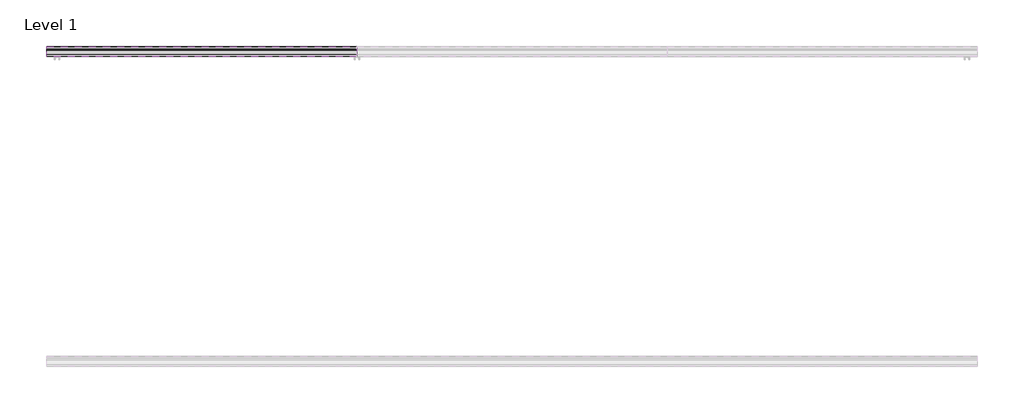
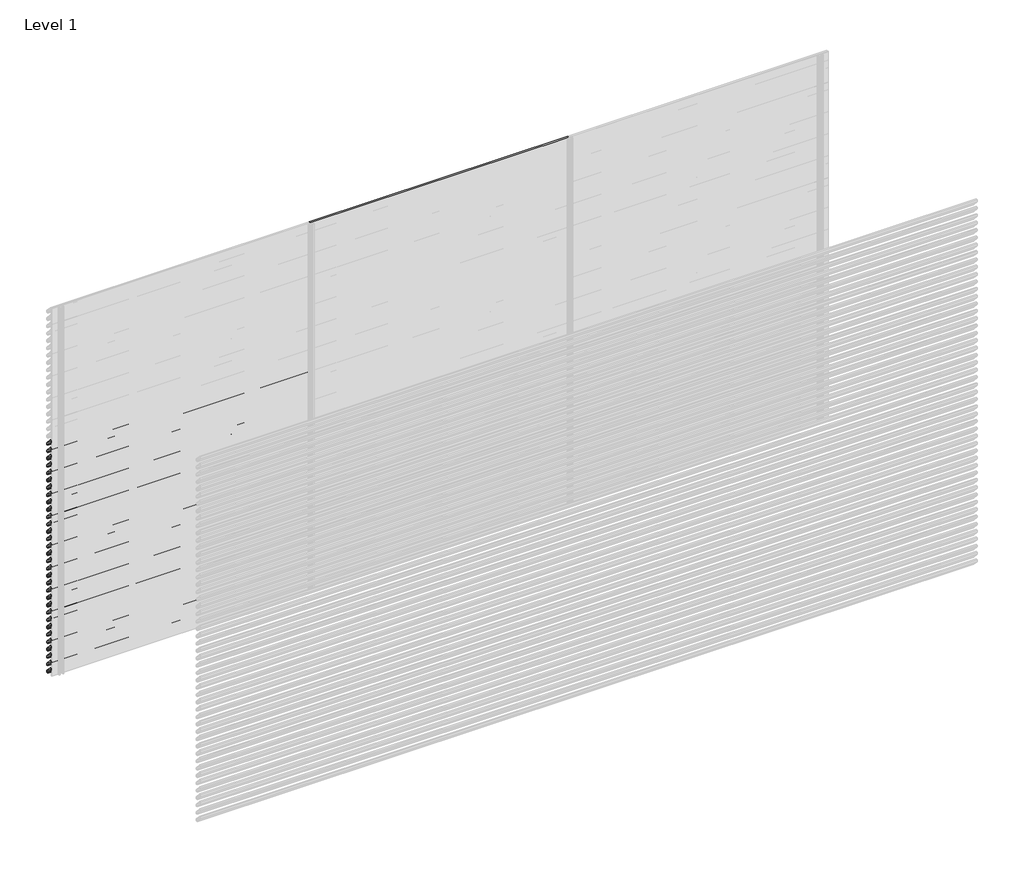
# One storey, part 139 of 153: 33 proxies.
"""IFC4 building model written with IfcOpenShell, lengths in millimetres."""

from ifc_helpers import new_model, si_unit, point, frame, frame_2d, origin, place, context, project, spatial, polyline, circle_curve, trimmed, segment, composite_curve, outline, extrude, element, save

model = new_model("IFC4")

# Units and contexts
model_context = context("Model", 3, world=origin())
ifc_project = project(units=[si_unit("LENGTHUNIT", "METRE", prefix="MILLI")], contexts=[model_context])

# Site, building, storey
site = spatial("IfcSite", under=ifc_project)
building = spatial("IfcBuilding", under=site)
storey = spatial("IfcBuildingStorey", under=building, Name="Level 1", Elevation=0.0)

# Proxies
placement = place(None, origin())
element("IfcBuildingElementProxy", 1, Name="Wall Sweeps", at=placement, inside=storey, context=model_context, shape_type="SweptSolid", body=[
    extrude(outline(composite_curve([segment(polyline([(66485.0540136, 1920.0), (66499.874191, 1918.7034025), (66549.0540136, 1865.0102749), (66549.0540136, 1853.6108187)]), True, "CONTINUOUS"), segment(trimmed(circle_curve(frame_2d((66545.7883652, 1853.897153)), 3.2781774), [point((66549.0540136, 1853.6108187))], [point((66546.4639442, 1850.6893438))], False, "CARTESIAN"), True, "CONTINUOUS"), segment(polyline([(66546.4639442, 1850.6893438), (66534.1895723, 1851.6282758), (66485.0540136, 1905.2730773), (66485.0540136, 1920.0)]), True, "CONTINUOUS")], self_intersect=False), holes=[composite_curve([segment(polyline([(66499.1621773, 1917.2599659), (66486.5540136, 1918.3630372), (66486.5540136, 1905.856213), (66534.8952036, 1853.0786805), (66546.3312542, 1852.2038762)]), True, "CONTINUOUS"), segment(trimmed(circle_curve(frame_2d((66545.7883652, 1853.897153)), 1.7781774), [point((66546.3312542, 1852.2038762))], [point((66547.5540136, 1853.6864389))], True, "CARTESIAN"), True, "CONTINUOUS"), segment(polyline([(66547.5540136, 1853.6864389), (66547.5540136, 1864.4271392), (66499.1621773, 1917.2599659)]), True, "CONTINUOUS")], self_intersect=False)]), frame((44966.6208097, 0.0, 0.0), z_axis=(1.0, 0.0, 0.0), x_axis=(0.0, 1.0, 0.0)), (0.0, 0.0, 1.0), 2000.0000001),
])
element("IfcBuildingElementProxy", 2, Name="Wall Sweeps", at=placement, inside=storey, context=model_context, shape_type="SweptSolid", body=[
    extrude(outline(composite_curve([segment(polyline([(66485.0540136, 1860.0), (66499.874191, 1858.7034025), (66549.0540136, 1805.0102749), (66549.0540136, 1793.6108187)]), True, "CONTINUOUS"), segment(trimmed(circle_curve(frame_2d((66545.7883652, 1793.897153)), 3.2781774), [point((66549.0540136, 1793.6108187))], [point((66546.4639442, 1790.6893438))], False, "CARTESIAN"), True, "CONTINUOUS"), segment(polyline([(66546.4639442, 1790.6893438), (66534.1895723, 1791.6282758), (66485.0540136, 1845.2730773), (66485.0540136, 1860.0)]), True, "CONTINUOUS")], self_intersect=False), holes=[composite_curve([segment(polyline([(66499.1621773, 1857.2599659), (66486.5540136, 1858.3630372), (66486.5540136, 1845.856213), (66534.8952036, 1793.0786805), (66546.3312542, 1792.2038762)]), True, "CONTINUOUS"), segment(trimmed(circle_curve(frame_2d((66545.7883652, 1793.897153)), 1.7781774), [point((66546.3312542, 1792.2038762))], [point((66547.5540136, 1793.6864389))], True, "CARTESIAN"), True, "CONTINUOUS"), segment(polyline([(66547.5540136, 1793.6864389), (66547.5540136, 1804.4271392), (66499.1621773, 1857.2599659)]), True, "CONTINUOUS")], self_intersect=False)]), frame((44966.6208097, 0.0, 0.0), z_axis=(1.0, 0.0, 0.0), x_axis=(0.0, 1.0, 0.0)), (0.0, 0.0, 1.0), 2000.0000001),
])
element("IfcBuildingElementProxy", 3, Name="Wall Sweeps", at=placement, inside=storey, context=model_context, shape_type="SweptSolid", body=[
    extrude(outline(composite_curve([segment(polyline([(66485.0540136, 1800.0), (66499.874191, 1798.7034025), (66549.0540136, 1745.0102749), (66549.0540136, 1733.6108187)]), True, "CONTINUOUS"), segment(trimmed(circle_curve(frame_2d((66545.7883652, 1733.897153)), 3.2781774), [point((66549.0540136, 1733.6108187))], [point((66546.4639442, 1730.6893438))], False, "CARTESIAN"), True, "CONTINUOUS"), segment(polyline([(66546.4639442, 1730.6893438), (66534.1895723, 1731.6282758), (66485.0540136, 1785.2730773), (66485.0540136, 1800.0)]), True, "CONTINUOUS")], self_intersect=False), holes=[composite_curve([segment(polyline([(66499.1621773, 1797.2599659), (66486.5540136, 1798.3630372), (66486.5540136, 1785.856213), (66534.8952036, 1733.0786805), (66546.3312542, 1732.2038762)]), True, "CONTINUOUS"), segment(trimmed(circle_curve(frame_2d((66545.7883652, 1733.897153)), 1.7781774), [point((66546.3312542, 1732.2038762))], [point((66547.5540136, 1733.6864389))], True, "CARTESIAN"), True, "CONTINUOUS"), segment(polyline([(66547.5540136, 1733.6864389), (66547.5540136, 1744.4271392), (66499.1621773, 1797.2599659)]), True, "CONTINUOUS")], self_intersect=False)]), frame((44966.6208097, 0.0, 0.0), z_axis=(1.0, 0.0, 0.0), x_axis=(0.0, 1.0, 0.0)), (0.0, 0.0, 1.0), 2000.0000001),
])
element("IfcBuildingElementProxy", 4, Name="Wall Sweeps", at=placement, inside=storey, context=model_context, shape_type="SweptSolid", body=[
    extrude(outline(composite_curve([segment(polyline([(66485.0540136, 1740.0), (66499.874191, 1738.7034025), (66549.0540136, 1685.0102749), (66549.0540136, 1673.6108187)]), True, "CONTINUOUS"), segment(trimmed(circle_curve(frame_2d((66545.7883652, 1673.897153)), 3.2781774), [point((66549.0540136, 1673.6108187))], [point((66546.4639442, 1670.6893438))], False, "CARTESIAN"), True, "CONTINUOUS"), segment(polyline([(66546.4639442, 1670.6893438), (66534.1895723, 1671.6282758), (66485.0540136, 1725.2730773), (66485.0540136, 1740.0)]), True, "CONTINUOUS")], self_intersect=False), holes=[composite_curve([segment(polyline([(66499.1621773, 1737.2599659), (66486.5540136, 1738.3630372), (66486.5540136, 1725.856213), (66534.8952036, 1673.0786805), (66546.3312542, 1672.2038762)]), True, "CONTINUOUS"), segment(trimmed(circle_curve(frame_2d((66545.7883652, 1673.897153)), 1.7781774), [point((66546.3312542, 1672.2038762))], [point((66547.5540136, 1673.6864389))], True, "CARTESIAN"), True, "CONTINUOUS"), segment(polyline([(66547.5540136, 1673.6864389), (66547.5540136, 1684.4271392), (66499.1621773, 1737.2599659)]), True, "CONTINUOUS")], self_intersect=False)]), frame((44966.6208097, 0.0, 0.0), z_axis=(1.0, 0.0, 0.0), x_axis=(0.0, 1.0, 0.0)), (0.0, 0.0, 1.0), 2000.0000001),
])
element("IfcBuildingElementProxy", 5, Name="Wall Sweeps", at=placement, inside=storey, context=model_context, shape_type="SweptSolid", body=[
    extrude(outline(composite_curve([segment(polyline([(66485.0540136, 1680.0), (66499.874191, 1678.7034025), (66549.0540136, 1625.0102749), (66549.0540136, 1613.6108187)]), True, "CONTINUOUS"), segment(trimmed(circle_curve(frame_2d((66545.7883652, 1613.897153)), 3.2781774), [point((66549.0540136, 1613.6108187))], [point((66546.4639442, 1610.6893438))], False, "CARTESIAN"), True, "CONTINUOUS"), segment(polyline([(66546.4639442, 1610.6893438), (66534.1895723, 1611.6282758), (66485.0540136, 1665.2730773), (66485.0540136, 1680.0)]), True, "CONTINUOUS")], self_intersect=False), holes=[composite_curve([segment(polyline([(66499.1621773, 1677.2599659), (66486.5540136, 1678.3630372), (66486.5540136, 1665.856213), (66534.8952036, 1613.0786805), (66546.3312542, 1612.2038762)]), True, "CONTINUOUS"), segment(trimmed(circle_curve(frame_2d((66545.7883652, 1613.897153)), 1.7781774), [point((66546.3312542, 1612.2038762))], [point((66547.5540136, 1613.6864389))], True, "CARTESIAN"), True, "CONTINUOUS"), segment(polyline([(66547.5540136, 1613.6864389), (66547.5540136, 1624.4271392), (66499.1621773, 1677.2599659)]), True, "CONTINUOUS")], self_intersect=False)]), frame((44966.6208097, 0.0, 0.0), z_axis=(1.0, 0.0, 0.0), x_axis=(0.0, 1.0, 0.0)), (0.0, 0.0, 1.0), 2000.0000001),
])
element("IfcBuildingElementProxy", 6, Name="Wall Sweeps", at=placement, inside=storey, context=model_context, shape_type="SweptSolid", body=[
    extrude(outline(composite_curve([segment(polyline([(66485.0540136, 1620.0), (66499.874191, 1618.7034025), (66549.0540136, 1565.0102749), (66549.0540136, 1553.6108187)]), True, "CONTINUOUS"), segment(trimmed(circle_curve(frame_2d((66545.7883652, 1553.897153)), 3.2781774), [point((66549.0540136, 1553.6108187))], [point((66546.4639442, 1550.6893438))], False, "CARTESIAN"), True, "CONTINUOUS"), segment(polyline([(66546.4639442, 1550.6893438), (66534.1895723, 1551.6282758), (66485.0540136, 1605.2730773), (66485.0540136, 1620.0)]), True, "CONTINUOUS")], self_intersect=False), holes=[composite_curve([segment(polyline([(66499.1621773, 1617.2599659), (66486.5540136, 1618.3630372), (66486.5540136, 1605.856213), (66534.8952036, 1553.0786805), (66546.3312542, 1552.2038762)]), True, "CONTINUOUS"), segment(trimmed(circle_curve(frame_2d((66545.7883652, 1553.897153)), 1.7781774), [point((66546.3312542, 1552.2038762))], [point((66547.5540136, 1553.6864389))], True, "CARTESIAN"), True, "CONTINUOUS"), segment(polyline([(66547.5540136, 1553.6864389), (66547.5540136, 1564.4271392), (66499.1621773, 1617.2599659)]), True, "CONTINUOUS")], self_intersect=False)]), frame((44966.6208097, 0.0, 0.0), z_axis=(1.0, 0.0, 0.0), x_axis=(0.0, 1.0, 0.0)), (0.0, 0.0, 1.0), 2000.0000001),
])
element("IfcBuildingElementProxy", 7, Name="Wall Sweeps", at=placement, inside=storey, context=model_context, shape_type="SweptSolid", body=[
    extrude(outline(composite_curve([segment(polyline([(66485.0540136, 1560.0), (66499.874191, 1558.7034025), (66549.0540136, 1505.0102749), (66549.0540136, 1493.6108187)]), True, "CONTINUOUS"), segment(trimmed(circle_curve(frame_2d((66545.7883652, 1493.897153)), 3.2781774), [point((66549.0540136, 1493.6108187))], [point((66546.4639442, 1490.6893438))], False, "CARTESIAN"), True, "CONTINUOUS"), segment(polyline([(66546.4639442, 1490.6893438), (66534.1895723, 1491.6282758), (66485.0540136, 1545.2730773), (66485.0540136, 1560.0)]), True, "CONTINUOUS")], self_intersect=False), holes=[composite_curve([segment(polyline([(66499.1621773, 1557.2599659), (66486.5540136, 1558.3630372), (66486.5540136, 1545.856213), (66534.8952036, 1493.0786805), (66546.3312542, 1492.2038762)]), True, "CONTINUOUS"), segment(trimmed(circle_curve(frame_2d((66545.7883652, 1493.897153)), 1.7781774), [point((66546.3312542, 1492.2038762))], [point((66547.5540136, 1493.6864389))], True, "CARTESIAN"), True, "CONTINUOUS"), segment(polyline([(66547.5540136, 1493.6864389), (66547.5540136, 1504.4271392), (66499.1621773, 1557.2599659)]), True, "CONTINUOUS")], self_intersect=False)]), frame((44966.6208097, 0.0, 0.0), z_axis=(1.0, 0.0, 0.0), x_axis=(0.0, 1.0, 0.0)), (0.0, 0.0, 1.0), 2000.0000001),
])
element("IfcBuildingElementProxy", 8, Name="Wall Sweeps", at=placement, inside=storey, context=model_context, shape_type="SweptSolid", body=[
    extrude(outline(composite_curve([segment(polyline([(66485.0540136, 1500.0), (66499.874191, 1498.7034025), (66549.0540136, 1445.0102749), (66549.0540136, 1433.6108187)]), True, "CONTINUOUS"), segment(trimmed(circle_curve(frame_2d((66545.7883652, 1433.897153)), 3.2781774), [point((66549.0540136, 1433.6108187))], [point((66546.4639442, 1430.6893438))], False, "CARTESIAN"), True, "CONTINUOUS"), segment(polyline([(66546.4639442, 1430.6893438), (66534.1895723, 1431.6282758), (66485.0540136, 1485.2730773), (66485.0540136, 1500.0)]), True, "CONTINUOUS")], self_intersect=False), holes=[composite_curve([segment(polyline([(66499.1621773, 1497.2599659), (66486.5540136, 1498.3630372), (66486.5540136, 1485.856213), (66534.8952036, 1433.0786805), (66546.3312542, 1432.2038762)]), True, "CONTINUOUS"), segment(trimmed(circle_curve(frame_2d((66545.7883652, 1433.897153)), 1.7781774), [point((66546.3312542, 1432.2038762))], [point((66547.5540136, 1433.6864389))], True, "CARTESIAN"), True, "CONTINUOUS"), segment(polyline([(66547.5540136, 1433.6864389), (66547.5540136, 1444.4271392), (66499.1621773, 1497.2599659)]), True, "CONTINUOUS")], self_intersect=False)]), frame((44966.6208097, 0.0, 0.0), z_axis=(1.0, 0.0, 0.0), x_axis=(0.0, 1.0, 0.0)), (0.0, 0.0, 1.0), 2000.0000001),
])
element("IfcBuildingElementProxy", 9, Name="Wall Sweeps", at=placement, inside=storey, context=model_context, shape_type="SweptSolid", body=[
    extrude(outline(composite_curve([segment(polyline([(66485.0540136, 1440.0), (66499.874191, 1438.7034025), (66549.0540136, 1385.0102749), (66549.0540136, 1373.6108187)]), True, "CONTINUOUS"), segment(trimmed(circle_curve(frame_2d((66545.7883652, 1373.897153)), 3.2781774), [point((66549.0540136, 1373.6108187))], [point((66546.4639442, 1370.6893438))], False, "CARTESIAN"), True, "CONTINUOUS"), segment(polyline([(66546.4639442, 1370.6893438), (66534.1895723, 1371.6282758), (66485.0540136, 1425.2730773), (66485.0540136, 1440.0)]), True, "CONTINUOUS")], self_intersect=False), holes=[composite_curve([segment(polyline([(66499.1621773, 1437.2599659), (66486.5540136, 1438.3630372), (66486.5540136, 1425.856213), (66534.8952036, 1373.0786805), (66546.3312542, 1372.2038762)]), True, "CONTINUOUS"), segment(trimmed(circle_curve(frame_2d((66545.7883652, 1373.897153)), 1.7781774), [point((66546.3312542, 1372.2038762))], [point((66547.5540136, 1373.6864389))], True, "CARTESIAN"), True, "CONTINUOUS"), segment(polyline([(66547.5540136, 1373.6864389), (66547.5540136, 1384.4271392), (66499.1621773, 1437.2599659)]), True, "CONTINUOUS")], self_intersect=False)]), frame((44966.6208097, 0.0, 0.0), z_axis=(1.0, 0.0, 0.0), x_axis=(0.0, 1.0, 0.0)), (0.0, 0.0, 1.0), 2000.0000001),
])
element("IfcBuildingElementProxy", 10, Name="Wall Sweeps", at=placement, inside=storey, context=model_context, shape_type="SweptSolid", body=[
    extrude(outline(composite_curve([segment(polyline([(66485.0540136, 1380.0), (66499.874191, 1378.7034025), (66549.0540136, 1325.0102749), (66549.0540136, 1313.6108187)]), True, "CONTINUOUS"), segment(trimmed(circle_curve(frame_2d((66545.7883652, 1313.897153)), 3.2781774), [point((66549.0540136, 1313.6108187))], [point((66546.4639442, 1310.6893438))], False, "CARTESIAN"), True, "CONTINUOUS"), segment(polyline([(66546.4639442, 1310.6893438), (66534.1895723, 1311.6282758), (66485.0540136, 1365.2730773), (66485.0540136, 1380.0)]), True, "CONTINUOUS")], self_intersect=False), holes=[composite_curve([segment(polyline([(66499.1621773, 1377.2599659), (66486.5540136, 1378.3630372), (66486.5540136, 1365.856213), (66534.8952036, 1313.0786805), (66546.3312542, 1312.2038762)]), True, "CONTINUOUS"), segment(trimmed(circle_curve(frame_2d((66545.7883652, 1313.897153)), 1.7781774), [point((66546.3312542, 1312.2038762))], [point((66547.5540136, 1313.6864389))], True, "CARTESIAN"), True, "CONTINUOUS"), segment(polyline([(66547.5540136, 1313.6864389), (66547.5540136, 1324.4271392), (66499.1621773, 1377.2599659)]), True, "CONTINUOUS")], self_intersect=False)]), frame((44966.6208097, 0.0, 0.0), z_axis=(1.0, 0.0, 0.0), x_axis=(0.0, 1.0, 0.0)), (0.0, 0.0, 1.0), 2000.0000001),
])
element("IfcBuildingElementProxy", 11, Name="Wall Sweeps", at=placement, inside=storey, context=model_context, shape_type="SweptSolid", body=[
    extrude(outline(composite_curve([segment(polyline([(66485.0540136, 1320.0), (66499.874191, 1318.7034025), (66549.0540136, 1265.0102749), (66549.0540136, 1253.6108187)]), True, "CONTINUOUS"), segment(trimmed(circle_curve(frame_2d((66545.7883652, 1253.897153)), 3.2781774), [point((66549.0540136, 1253.6108187))], [point((66546.4639442, 1250.6893438))], False, "CARTESIAN"), True, "CONTINUOUS"), segment(polyline([(66546.4639442, 1250.6893438), (66534.1895723, 1251.6282758), (66485.0540136, 1305.2730773), (66485.0540136, 1320.0)]), True, "CONTINUOUS")], self_intersect=False), holes=[composite_curve([segment(polyline([(66499.1621773, 1317.2599659), (66486.5540136, 1318.3630372), (66486.5540136, 1305.856213), (66534.8952036, 1253.0786805), (66546.3312542, 1252.2038762)]), True, "CONTINUOUS"), segment(trimmed(circle_curve(frame_2d((66545.7883652, 1253.897153)), 1.7781774), [point((66546.3312542, 1252.2038762))], [point((66547.5540136, 1253.6864389))], True, "CARTESIAN"), True, "CONTINUOUS"), segment(polyline([(66547.5540136, 1253.6864389), (66547.5540136, 1264.4271392), (66499.1621773, 1317.2599659)]), True, "CONTINUOUS")], self_intersect=False)]), frame((44966.6208097, 0.0, 0.0), z_axis=(1.0, 0.0, 0.0), x_axis=(0.0, 1.0, 0.0)), (0.0, 0.0, 1.0), 2000.0000001),
])
element("IfcBuildingElementProxy", 12, Name="Wall Sweeps", at=placement, inside=storey, context=model_context, shape_type="SweptSolid", body=[
    extrude(outline(composite_curve([segment(polyline([(66485.0540136, 1260.0), (66499.874191, 1258.7034025), (66549.0540136, 1205.0102749), (66549.0540136, 1193.6108187)]), True, "CONTINUOUS"), segment(trimmed(circle_curve(frame_2d((66545.7883652, 1193.897153)), 3.2781774), [point((66549.0540136, 1193.6108187))], [point((66546.4639442, 1190.6893438))], False, "CARTESIAN"), True, "CONTINUOUS"), segment(polyline([(66546.4639442, 1190.6893438), (66534.1895723, 1191.6282758), (66485.0540136, 1245.2730773), (66485.0540136, 1260.0)]), True, "CONTINUOUS")], self_intersect=False), holes=[composite_curve([segment(polyline([(66499.1621773, 1257.2599659), (66486.5540136, 1258.3630372), (66486.5540136, 1245.856213), (66534.8952036, 1193.0786805), (66546.3312542, 1192.2038762)]), True, "CONTINUOUS"), segment(trimmed(circle_curve(frame_2d((66545.7883652, 1193.897153)), 1.7781774), [point((66546.3312542, 1192.2038762))], [point((66547.5540136, 1193.6864389))], True, "CARTESIAN"), True, "CONTINUOUS"), segment(polyline([(66547.5540136, 1193.6864389), (66547.5540136, 1204.4271392), (66499.1621773, 1257.2599659)]), True, "CONTINUOUS")], self_intersect=False)]), frame((44966.6208097, 0.0, 0.0), z_axis=(1.0, 0.0, 0.0), x_axis=(0.0, 1.0, 0.0)), (0.0, 0.0, 1.0), 2000.0000001),
])
element("IfcBuildingElementProxy", 13, Name="Wall Sweeps", at=placement, inside=storey, context=model_context, shape_type="SweptSolid", body=[
    extrude(outline(composite_curve([segment(polyline([(66485.0540136, 1200.0), (66499.874191, 1198.7034025), (66549.0540136, 1145.0102749), (66549.0540136, 1133.6108187)]), True, "CONTINUOUS"), segment(trimmed(circle_curve(frame_2d((66545.7883652, 1133.897153)), 3.2781774), [point((66549.0540136, 1133.6108187))], [point((66546.4639442, 1130.6893438))], False, "CARTESIAN"), True, "CONTINUOUS"), segment(polyline([(66546.4639442, 1130.6893438), (66534.1895723, 1131.6282758), (66485.0540136, 1185.2730773), (66485.0540136, 1200.0)]), True, "CONTINUOUS")], self_intersect=False), holes=[composite_curve([segment(polyline([(66499.1621773, 1197.2599659), (66486.5540136, 1198.3630372), (66486.5540136, 1185.856213), (66534.8952036, 1133.0786805), (66546.3312542, 1132.2038762)]), True, "CONTINUOUS"), segment(trimmed(circle_curve(frame_2d((66545.7883652, 1133.897153)), 1.7781774), [point((66546.3312542, 1132.2038762))], [point((66547.5540136, 1133.6864389))], True, "CARTESIAN"), True, "CONTINUOUS"), segment(polyline([(66547.5540136, 1133.6864389), (66547.5540136, 1144.4271392), (66499.1621773, 1197.2599659)]), True, "CONTINUOUS")], self_intersect=False)]), frame((44966.6208097, 0.0, 0.0), z_axis=(1.0, 0.0, 0.0), x_axis=(0.0, 1.0, 0.0)), (0.0, 0.0, 1.0), 2000.0000001),
])
element("IfcBuildingElementProxy", 14, Name="Wall Sweeps", at=placement, inside=storey, context=model_context, shape_type="SweptSolid", body=[
    extrude(outline(composite_curve([segment(polyline([(66485.0540136, 1140.0), (66499.874191, 1138.7034025), (66549.0540136, 1085.0102749), (66549.0540136, 1073.6108187)]), True, "CONTINUOUS"), segment(trimmed(circle_curve(frame_2d((66545.7883652, 1073.897153)), 3.2781774), [point((66549.0540136, 1073.6108187))], [point((66546.4639442, 1070.6893438))], False, "CARTESIAN"), True, "CONTINUOUS"), segment(polyline([(66546.4639442, 1070.6893438), (66534.1895723, 1071.6282758), (66485.0540136, 1125.2730773), (66485.0540136, 1140.0)]), True, "CONTINUOUS")], self_intersect=False), holes=[composite_curve([segment(polyline([(66499.1621773, 1137.2599659), (66486.5540136, 1138.3630372), (66486.5540136, 1125.856213), (66534.8952036, 1073.0786805), (66546.3312542, 1072.2038762)]), True, "CONTINUOUS"), segment(trimmed(circle_curve(frame_2d((66545.7883652, 1073.897153)), 1.7781774), [point((66546.3312542, 1072.2038762))], [point((66547.5540136, 1073.6864389))], True, "CARTESIAN"), True, "CONTINUOUS"), segment(polyline([(66547.5540136, 1073.6864389), (66547.5540136, 1084.4271392), (66499.1621773, 1137.2599659)]), True, "CONTINUOUS")], self_intersect=False)]), frame((44966.6208097, 0.0, 0.0), z_axis=(1.0, 0.0, 0.0), x_axis=(0.0, 1.0, 0.0)), (0.0, 0.0, 1.0), 2000.0000001),
])
element("IfcBuildingElementProxy", 15, Name="Wall Sweeps", at=placement, inside=storey, context=model_context, shape_type="SweptSolid", body=[
    extrude(outline(composite_curve([segment(polyline([(66485.0540136, 1080.0), (66499.874191, 1078.7034025), (66549.0540136, 1025.0102749), (66549.0540136, 1013.6108187)]), True, "CONTINUOUS"), segment(trimmed(circle_curve(frame_2d((66545.7883652, 1013.897153)), 3.2781774), [point((66549.0540136, 1013.6108187))], [point((66546.4639442, 1010.6893438))], False, "CARTESIAN"), True, "CONTINUOUS"), segment(polyline([(66546.4639442, 1010.6893438), (66534.1895723, 1011.6282758), (66485.0540136, 1065.2730773), (66485.0540136, 1080.0)]), True, "CONTINUOUS")], self_intersect=False), holes=[composite_curve([segment(polyline([(66499.1621773, 1077.2599659), (66486.5540136, 1078.3630372), (66486.5540136, 1065.856213), (66534.8952036, 1013.0786805), (66546.3312542, 1012.2038762)]), True, "CONTINUOUS"), segment(trimmed(circle_curve(frame_2d((66545.7883652, 1013.897153)), 1.7781774), [point((66546.3312542, 1012.2038762))], [point((66547.5540136, 1013.6864389))], True, "CARTESIAN"), True, "CONTINUOUS"), segment(polyline([(66547.5540136, 1013.6864389), (66547.5540136, 1024.4271392), (66499.1621773, 1077.2599659)]), True, "CONTINUOUS")], self_intersect=False)]), frame((44966.6208097, 0.0, 0.0), z_axis=(1.0, 0.0, 0.0), x_axis=(0.0, 1.0, 0.0)), (0.0, 0.0, 1.0), 2000.0000001),
])
element("IfcBuildingElementProxy", 16, Name="Wall Sweeps", at=placement, inside=storey, context=model_context, shape_type="SweptSolid", body=[
    extrude(outline(composite_curve([segment(polyline([(66485.0540136, 1020.0), (66499.874191, 1018.7034025), (66549.0540136, 965.0102749), (66549.0540136, 953.6108187)]), True, "CONTINUOUS"), segment(trimmed(circle_curve(frame_2d((66545.7883652, 953.897153)), 3.2781774), [point((66549.0540136, 953.6108187))], [point((66546.4639442, 950.6893438))], False, "CARTESIAN"), True, "CONTINUOUS"), segment(polyline([(66546.4639442, 950.6893438), (66534.1895723, 951.6282758), (66485.0540136, 1005.2730773), (66485.0540136, 1020.0)]), True, "CONTINUOUS")], self_intersect=False), holes=[composite_curve([segment(polyline([(66499.1621773, 1017.2599659), (66486.5540136, 1018.3630372), (66486.5540136, 1005.856213), (66534.8952036, 953.0786805), (66546.3312542, 952.2038762)]), True, "CONTINUOUS"), segment(trimmed(circle_curve(frame_2d((66545.7883652, 953.897153)), 1.7781774), [point((66546.3312542, 952.2038762))], [point((66547.5540136, 953.6864389))], True, "CARTESIAN"), True, "CONTINUOUS"), segment(polyline([(66547.5540136, 953.6864389), (66547.5540136, 964.4271392), (66499.1621773, 1017.2599659)]), True, "CONTINUOUS")], self_intersect=False)]), frame((44966.6208097, 0.0, 0.0), z_axis=(1.0, 0.0, 0.0), x_axis=(0.0, 1.0, 0.0)), (0.0, 0.0, 1.0), 2000.0000001),
])
element("IfcBuildingElementProxy", 17, Name="Wall Sweeps", at=placement, inside=storey, context=model_context, shape_type="SweptSolid", body=[
    extrude(outline(composite_curve([segment(polyline([(66485.0540136, 960.0), (66499.874191, 958.7034025), (66549.0540136, 905.0102749), (66549.0540136, 893.6108187)]), True, "CONTINUOUS"), segment(trimmed(circle_curve(frame_2d((66545.7883652, 893.897153)), 3.2781774), [point((66549.0540136, 893.6108187))], [point((66546.4639442, 890.6893438))], False, "CARTESIAN"), True, "CONTINUOUS"), segment(polyline([(66546.4639442, 890.6893438), (66534.1895723, 891.6282758), (66485.0540136, 945.2730773), (66485.0540136, 960.0)]), True, "CONTINUOUS")], self_intersect=False), holes=[composite_curve([segment(polyline([(66499.1621773, 957.2599659), (66486.5540136, 958.3630372), (66486.5540136, 945.856213), (66534.8952036, 893.0786805), (66546.3312542, 892.2038762)]), True, "CONTINUOUS"), segment(trimmed(circle_curve(frame_2d((66545.7883652, 893.897153)), 1.7781774), [point((66546.3312542, 892.2038762))], [point((66547.5540136, 893.6864389))], True, "CARTESIAN"), True, "CONTINUOUS"), segment(polyline([(66547.5540136, 893.6864389), (66547.5540136, 904.4271392), (66499.1621773, 957.2599659)]), True, "CONTINUOUS")], self_intersect=False)]), frame((44966.6208097, 0.0, 0.0), z_axis=(1.0, 0.0, 0.0), x_axis=(0.0, 1.0, 0.0)), (0.0, 0.0, 1.0), 2000.0000001),
])
element("IfcBuildingElementProxy", 18, Name="Wall Sweeps", at=placement, inside=storey, context=model_context, shape_type="SweptSolid", body=[
    extrude(outline(composite_curve([segment(polyline([(66485.0540136, 900.0), (66499.874191, 898.7034025), (66549.0540136, 845.0102749), (66549.0540136, 833.6108187)]), True, "CONTINUOUS"), segment(trimmed(circle_curve(frame_2d((66545.7883652, 833.897153)), 3.2781774), [point((66549.0540136, 833.6108187))], [point((66546.4639442, 830.6893438))], False, "CARTESIAN"), True, "CONTINUOUS"), segment(polyline([(66546.4639442, 830.6893438), (66534.1895723, 831.6282758), (66485.0540136, 885.2730773), (66485.0540136, 900.0)]), True, "CONTINUOUS")], self_intersect=False), holes=[composite_curve([segment(polyline([(66499.1621773, 897.2599659), (66486.5540136, 898.3630372), (66486.5540136, 885.856213), (66534.8952036, 833.0786805), (66546.3312542, 832.2038762)]), True, "CONTINUOUS"), segment(trimmed(circle_curve(frame_2d((66545.7883652, 833.897153)), 1.7781774), [point((66546.3312542, 832.2038762))], [point((66547.5540136, 833.6864389))], True, "CARTESIAN"), True, "CONTINUOUS"), segment(polyline([(66547.5540136, 833.6864389), (66547.5540136, 844.4271392), (66499.1621773, 897.2599659)]), True, "CONTINUOUS")], self_intersect=False)]), frame((44966.6208097, 0.0, 0.0), z_axis=(1.0, 0.0, 0.0), x_axis=(0.0, 1.0, 0.0)), (0.0, 0.0, 1.0), 2000.0000001),
])
element("IfcBuildingElementProxy", 19, Name="Wall Sweeps", at=placement, inside=storey, context=model_context, shape_type="SweptSolid", body=[
    extrude(outline(composite_curve([segment(polyline([(66485.0540136, 840.0), (66499.874191, 838.7034025), (66549.0540136, 785.0102749), (66549.0540136, 773.6108187)]), True, "CONTINUOUS"), segment(trimmed(circle_curve(frame_2d((66545.7883652, 773.897153)), 3.2781774), [point((66549.0540136, 773.6108187))], [point((66546.4639442, 770.6893438))], False, "CARTESIAN"), True, "CONTINUOUS"), segment(polyline([(66546.4639442, 770.6893438), (66534.1895723, 771.6282758), (66485.0540136, 825.2730773), (66485.0540136, 840.0)]), True, "CONTINUOUS")], self_intersect=False), holes=[composite_curve([segment(polyline([(66499.1621773, 837.2599659), (66486.5540136, 838.3630372), (66486.5540136, 825.856213), (66534.8952036, 773.0786805), (66546.3312542, 772.2038762)]), True, "CONTINUOUS"), segment(trimmed(circle_curve(frame_2d((66545.7883652, 773.897153)), 1.7781774), [point((66546.3312542, 772.2038762))], [point((66547.5540136, 773.6864389))], True, "CARTESIAN"), True, "CONTINUOUS"), segment(polyline([(66547.5540136, 773.6864389), (66547.5540136, 784.4271392), (66499.1621773, 837.2599659)]), True, "CONTINUOUS")], self_intersect=False)]), frame((44966.6208097, 0.0, 0.0), z_axis=(1.0, 0.0, 0.0), x_axis=(0.0, 1.0, 0.0)), (0.0, 0.0, 1.0), 2000.0000001),
])
element("IfcBuildingElementProxy", 20, Name="Wall Sweeps", at=placement, inside=storey, context=model_context, shape_type="SweptSolid", body=[
    extrude(outline(composite_curve([segment(polyline([(66485.0540136, 780.0), (66499.874191, 778.7034025), (66549.0540136, 725.0102749), (66549.0540136, 713.6108187)]), True, "CONTINUOUS"), segment(trimmed(circle_curve(frame_2d((66545.7883652, 713.897153)), 3.2781774), [point((66549.0540136, 713.6108187))], [point((66546.4639442, 710.6893438))], False, "CARTESIAN"), True, "CONTINUOUS"), segment(polyline([(66546.4639442, 710.6893438), (66534.1895723, 711.6282758), (66485.0540136, 765.2730773), (66485.0540136, 780.0)]), True, "CONTINUOUS")], self_intersect=False), holes=[composite_curve([segment(polyline([(66499.1621773, 777.2599659), (66486.5540136, 778.3630372), (66486.5540136, 765.856213), (66534.8952036, 713.0786805), (66546.3312542, 712.2038762)]), True, "CONTINUOUS"), segment(trimmed(circle_curve(frame_2d((66545.7883652, 713.897153)), 1.7781774), [point((66546.3312542, 712.2038762))], [point((66547.5540136, 713.6864389))], True, "CARTESIAN"), True, "CONTINUOUS"), segment(polyline([(66547.5540136, 713.6864389), (66547.5540136, 724.4271392), (66499.1621773, 777.2599659)]), True, "CONTINUOUS")], self_intersect=False)]), frame((44966.6208097, 0.0, 0.0), z_axis=(1.0, 0.0, 0.0), x_axis=(0.0, 1.0, 0.0)), (0.0, 0.0, 1.0), 2000.0000001),
])
element("IfcBuildingElementProxy", 21, Name="Wall Sweeps", at=placement, inside=storey, context=model_context, shape_type="SweptSolid", body=[
    extrude(outline(composite_curve([segment(polyline([(66485.0540136, 720.0), (66499.874191, 718.7034025), (66549.0540136, 665.0102749), (66549.0540136, 653.6108187)]), True, "CONTINUOUS"), segment(trimmed(circle_curve(frame_2d((66545.7883652, 653.897153)), 3.2781774), [point((66549.0540136, 653.6108187))], [point((66546.4639442, 650.6893438))], False, "CARTESIAN"), True, "CONTINUOUS"), segment(polyline([(66546.4639442, 650.6893438), (66534.1895723, 651.6282758), (66485.0540136, 705.2730773), (66485.0540136, 720.0)]), True, "CONTINUOUS")], self_intersect=False), holes=[composite_curve([segment(polyline([(66499.1621773, 717.2599659), (66486.5540136, 718.3630372), (66486.5540136, 705.856213), (66534.8952036, 653.0786805), (66546.3312542, 652.2038762)]), True, "CONTINUOUS"), segment(trimmed(circle_curve(frame_2d((66545.7883652, 653.897153)), 1.7781774), [point((66546.3312542, 652.2038762))], [point((66547.5540136, 653.6864389))], True, "CARTESIAN"), True, "CONTINUOUS"), segment(polyline([(66547.5540136, 653.6864389), (66547.5540136, 664.4271392), (66499.1621773, 717.2599659)]), True, "CONTINUOUS")], self_intersect=False)]), frame((44966.6208097, 0.0, 0.0), z_axis=(1.0, 0.0, 0.0), x_axis=(0.0, 1.0, 0.0)), (0.0, 0.0, 1.0), 2000.0000001),
])
element("IfcBuildingElementProxy", 22, Name="Wall Sweeps", at=placement, inside=storey, context=model_context, shape_type="SweptSolid", body=[
    extrude(outline(composite_curve([segment(polyline([(66485.0540136, 660.0), (66499.874191, 658.7034025), (66549.0540136, 605.0102749), (66549.0540136, 593.6108187)]), True, "CONTINUOUS"), segment(trimmed(circle_curve(frame_2d((66545.7883652, 593.897153)), 3.2781774), [point((66549.0540136, 593.6108187))], [point((66546.4639442, 590.6893438))], False, "CARTESIAN"), True, "CONTINUOUS"), segment(polyline([(66546.4639442, 590.6893438), (66534.1895723, 591.6282758), (66485.0540136, 645.2730773), (66485.0540136, 660.0)]), True, "CONTINUOUS")], self_intersect=False), holes=[composite_curve([segment(polyline([(66499.1621773, 657.2599659), (66486.5540136, 658.3630372), (66486.5540136, 645.856213), (66534.8952036, 593.0786805), (66546.3312542, 592.2038762)]), True, "CONTINUOUS"), segment(trimmed(circle_curve(frame_2d((66545.7883652, 593.897153)), 1.7781774), [point((66546.3312542, 592.2038762))], [point((66547.5540136, 593.6864389))], True, "CARTESIAN"), True, "CONTINUOUS"), segment(polyline([(66547.5540136, 593.6864389), (66547.5540136, 604.4271392), (66499.1621773, 657.2599659)]), True, "CONTINUOUS")], self_intersect=False)]), frame((44966.6208097, 0.0, 0.0), z_axis=(1.0, 0.0, 0.0), x_axis=(0.0, 1.0, 0.0)), (0.0, 0.0, 1.0), 2000.0000001),
])
element("IfcBuildingElementProxy", 23, Name="Wall Sweeps", at=placement, inside=storey, context=model_context, shape_type="SweptSolid", body=[
    extrude(outline(composite_curve([segment(polyline([(66485.0540136, 600.0), (66499.874191, 598.7034025), (66549.0540136, 545.0102749), (66549.0540136, 533.6108187)]), True, "CONTINUOUS"), segment(trimmed(circle_curve(frame_2d((66545.7883652, 533.897153)), 3.2781774), [point((66549.0540136, 533.6108187))], [point((66546.4639442, 530.6893438))], False, "CARTESIAN"), True, "CONTINUOUS"), segment(polyline([(66546.4639442, 530.6893438), (66534.1895723, 531.6282758), (66485.0540136, 585.2730773), (66485.0540136, 600.0)]), True, "CONTINUOUS")], self_intersect=False), holes=[composite_curve([segment(polyline([(66499.1621773, 597.2599659), (66486.5540136, 598.3630372), (66486.5540136, 585.856213), (66534.8952036, 533.0786805), (66546.3312542, 532.2038762)]), True, "CONTINUOUS"), segment(trimmed(circle_curve(frame_2d((66545.7883652, 533.897153)), 1.7781774), [point((66546.3312542, 532.2038762))], [point((66547.5540136, 533.6864389))], True, "CARTESIAN"), True, "CONTINUOUS"), segment(polyline([(66547.5540136, 533.6864389), (66547.5540136, 544.4271392), (66499.1621773, 597.2599659)]), True, "CONTINUOUS")], self_intersect=False)]), frame((44966.6208097, 0.0, 0.0), z_axis=(1.0, 0.0, 0.0), x_axis=(0.0, 1.0, 0.0)), (0.0, 0.0, 1.0), 2000.0000001),
])
element("IfcBuildingElementProxy", 24, Name="Wall Sweeps", at=placement, inside=storey, context=model_context, shape_type="SweptSolid", body=[
    extrude(outline(composite_curve([segment(polyline([(66485.0540136, 540.0), (66499.874191, 538.7034025), (66549.0540136, 485.0102749), (66549.0540136, 473.6108187)]), True, "CONTINUOUS"), segment(trimmed(circle_curve(frame_2d((66545.7883652, 473.897153)), 3.2781774), [point((66549.0540136, 473.6108187))], [point((66546.4639442, 470.6893438))], False, "CARTESIAN"), True, "CONTINUOUS"), segment(polyline([(66546.4639442, 470.6893438), (66534.1895723, 471.6282758), (66485.0540136, 525.2730773), (66485.0540136, 540.0)]), True, "CONTINUOUS")], self_intersect=False), holes=[composite_curve([segment(polyline([(66499.1621773, 537.2599659), (66486.5540136, 538.3630372), (66486.5540136, 525.856213), (66534.8952036, 473.0786805), (66546.3312542, 472.2038762)]), True, "CONTINUOUS"), segment(trimmed(circle_curve(frame_2d((66545.7883652, 473.897153)), 1.7781774), [point((66546.3312542, 472.2038762))], [point((66547.5540136, 473.6864389))], True, "CARTESIAN"), True, "CONTINUOUS"), segment(polyline([(66547.5540136, 473.6864389), (66547.5540136, 484.4271392), (66499.1621773, 537.2599659)]), True, "CONTINUOUS")], self_intersect=False)]), frame((44966.6208097, 0.0, 0.0), z_axis=(1.0, 0.0, 0.0), x_axis=(0.0, 1.0, 0.0)), (0.0, 0.0, 1.0), 2000.0000001),
])
element("IfcBuildingElementProxy", 25, Name="Wall Sweeps", at=placement, inside=storey, context=model_context, shape_type="SweptSolid", body=[
    extrude(outline(composite_curve([segment(polyline([(66485.0540136, 480.0), (66499.874191, 478.7034025), (66549.0540136, 425.0102749), (66549.0540136, 413.6108187)]), True, "CONTINUOUS"), segment(trimmed(circle_curve(frame_2d((66545.7883652, 413.897153)), 3.2781774), [point((66549.0540136, 413.6108187))], [point((66546.4639442, 410.6893438))], False, "CARTESIAN"), True, "CONTINUOUS"), segment(polyline([(66546.4639442, 410.6893438), (66534.1895723, 411.6282758), (66485.0540136, 465.2730773), (66485.0540136, 480.0)]), True, "CONTINUOUS")], self_intersect=False), holes=[composite_curve([segment(polyline([(66499.1621773, 477.2599659), (66486.5540136, 478.3630372), (66486.5540136, 465.856213), (66534.8952036, 413.0786805), (66546.3312542, 412.2038762)]), True, "CONTINUOUS"), segment(trimmed(circle_curve(frame_2d((66545.7883652, 413.897153)), 1.7781774), [point((66546.3312542, 412.2038762))], [point((66547.5540136, 413.6864389))], True, "CARTESIAN"), True, "CONTINUOUS"), segment(polyline([(66547.5540136, 413.6864389), (66547.5540136, 424.4271392), (66499.1621773, 477.2599659)]), True, "CONTINUOUS")], self_intersect=False)]), frame((44966.6208097, 0.0, 0.0), z_axis=(1.0, 0.0, 0.0), x_axis=(0.0, 1.0, 0.0)), (0.0, 0.0, 1.0), 2000.0000001),
])
element("IfcBuildingElementProxy", 26, Name="Wall Sweeps", at=placement, inside=storey, context=model_context, shape_type="SweptSolid", body=[
    extrude(outline(composite_curve([segment(polyline([(66485.0540136, 420.0), (66499.874191, 418.7034025), (66549.0540136, 365.0102749), (66549.0540136, 353.6108187)]), True, "CONTINUOUS"), segment(trimmed(circle_curve(frame_2d((66545.7883652, 353.897153)), 3.2781774), [point((66549.0540136, 353.6108187))], [point((66546.4639442, 350.6893438))], False, "CARTESIAN"), True, "CONTINUOUS"), segment(polyline([(66546.4639442, 350.6893438), (66534.1895723, 351.6282758), (66485.0540136, 405.2730773), (66485.0540136, 420.0)]), True, "CONTINUOUS")], self_intersect=False), holes=[composite_curve([segment(polyline([(66499.1621773, 417.2599659), (66486.5540136, 418.3630372), (66486.5540136, 405.856213), (66534.8952036, 353.0786805), (66546.3312542, 352.2038762)]), True, "CONTINUOUS"), segment(trimmed(circle_curve(frame_2d((66545.7883652, 353.897153)), 1.7781774), [point((66546.3312542, 352.2038762))], [point((66547.5540136, 353.6864389))], True, "CARTESIAN"), True, "CONTINUOUS"), segment(polyline([(66547.5540136, 353.6864389), (66547.5540136, 364.4271392), (66499.1621773, 417.2599659)]), True, "CONTINUOUS")], self_intersect=False)]), frame((44966.6208097, 0.0, 0.0), z_axis=(1.0, 0.0, 0.0), x_axis=(0.0, 1.0, 0.0)), (0.0, 0.0, 1.0), 2000.0000001),
])
element("IfcBuildingElementProxy", 27, Name="Wall Sweeps", at=placement, inside=storey, context=model_context, shape_type="SweptSolid", body=[
    extrude(outline(composite_curve([segment(polyline([(66485.0540136, 360.0), (66499.874191, 358.7034025), (66549.0540136, 305.0102749), (66549.0540136, 293.6108187)]), True, "CONTINUOUS"), segment(trimmed(circle_curve(frame_2d((66545.7883652, 293.897153)), 3.2781774), [point((66549.0540136, 293.6108187))], [point((66546.4639442, 290.6893438))], False, "CARTESIAN"), True, "CONTINUOUS"), segment(polyline([(66546.4639442, 290.6893438), (66534.1895723, 291.6282758), (66485.0540136, 345.2730773), (66485.0540136, 360.0)]), True, "CONTINUOUS")], self_intersect=False), holes=[composite_curve([segment(polyline([(66499.1621773, 357.2599659), (66486.5540136, 358.3630372), (66486.5540136, 345.856213), (66534.8952036, 293.0786805), (66546.3312542, 292.2038762)]), True, "CONTINUOUS"), segment(trimmed(circle_curve(frame_2d((66545.7883652, 293.897153)), 1.7781774), [point((66546.3312542, 292.2038762))], [point((66547.5540136, 293.6864389))], True, "CARTESIAN"), True, "CONTINUOUS"), segment(polyline([(66547.5540136, 293.6864389), (66547.5540136, 304.4271392), (66499.1621773, 357.2599659)]), True, "CONTINUOUS")], self_intersect=False)]), frame((44966.6208097, 0.0, 0.0), z_axis=(1.0, 0.0, 0.0), x_axis=(0.0, 1.0, 0.0)), (0.0, 0.0, 1.0), 2000.0000001),
])
element("IfcBuildingElementProxy", 28, Name="Wall Sweeps", at=placement, inside=storey, context=model_context, shape_type="SweptSolid", body=[
    extrude(outline(composite_curve([segment(polyline([(66485.0540136, 300.0), (66499.874191, 298.7034025), (66549.0540136, 245.0102749), (66549.0540136, 233.6108187)]), True, "CONTINUOUS"), segment(trimmed(circle_curve(frame_2d((66545.7883652, 233.897153)), 3.2781774), [point((66549.0540136, 233.6108187))], [point((66546.4639442, 230.6893438))], False, "CARTESIAN"), True, "CONTINUOUS"), segment(polyline([(66546.4639442, 230.6893438), (66534.1895723, 231.6282758), (66485.0540136, 285.2730773), (66485.0540136, 300.0)]), True, "CONTINUOUS")], self_intersect=False), holes=[composite_curve([segment(polyline([(66499.1621773, 297.2599659), (66486.5540136, 298.3630372), (66486.5540136, 285.856213), (66534.8952036, 233.0786805), (66546.3312542, 232.2038762)]), True, "CONTINUOUS"), segment(trimmed(circle_curve(frame_2d((66545.7883652, 233.897153)), 1.7781774), [point((66546.3312542, 232.2038762))], [point((66547.5540136, 233.6864389))], True, "CARTESIAN"), True, "CONTINUOUS"), segment(polyline([(66547.5540136, 233.6864389), (66547.5540136, 244.4271392), (66499.1621773, 297.2599659)]), True, "CONTINUOUS")], self_intersect=False)]), frame((44966.6208097, 0.0, 0.0), z_axis=(1.0, 0.0, 0.0), x_axis=(0.0, 1.0, 0.0)), (0.0, 0.0, 1.0), 2000.0000001),
])
element("IfcBuildingElementProxy", 29, Name="Wall Sweeps", at=placement, inside=storey, context=model_context, shape_type="SweptSolid", body=[
    extrude(outline(composite_curve([segment(polyline([(66485.0540136, 240.0), (66499.874191, 238.7034025), (66549.0540136, 185.0102749), (66549.0540136, 173.6108187)]), True, "CONTINUOUS"), segment(trimmed(circle_curve(frame_2d((66545.7883652, 173.897153)), 3.2781774), [point((66549.0540136, 173.6108187))], [point((66546.4639442, 170.6893438))], False, "CARTESIAN"), True, "CONTINUOUS"), segment(polyline([(66546.4639442, 170.6893438), (66534.1895723, 171.6282758), (66485.0540136, 225.2730773), (66485.0540136, 240.0)]), True, "CONTINUOUS")], self_intersect=False), holes=[composite_curve([segment(polyline([(66499.1621773, 237.2599659), (66486.5540136, 238.3630372), (66486.5540136, 225.856213), (66534.8952036, 173.0786805), (66546.3312542, 172.2038762)]), True, "CONTINUOUS"), segment(trimmed(circle_curve(frame_2d((66545.7883652, 173.897153)), 1.7781774), [point((66546.3312542, 172.2038762))], [point((66547.5540136, 173.6864389))], True, "CARTESIAN"), True, "CONTINUOUS"), segment(polyline([(66547.5540136, 173.6864389), (66547.5540136, 184.4271392), (66499.1621773, 237.2599659)]), True, "CONTINUOUS")], self_intersect=False)]), frame((44966.6208097, 0.0, 0.0), z_axis=(1.0, 0.0, 0.0), x_axis=(0.0, 1.0, 0.0)), (0.0, 0.0, 1.0), 2000.0000001),
])
element("IfcBuildingElementProxy", 30, Name="Wall Sweeps", at=placement, inside=storey, context=model_context, shape_type="SweptSolid", body=[
    extrude(outline(composite_curve([segment(polyline([(66485.0540136, 180.0), (66499.874191, 178.7034025), (66549.0540136, 125.0102749), (66549.0540136, 113.6108187)]), True, "CONTINUOUS"), segment(trimmed(circle_curve(frame_2d((66545.7883652, 113.897153)), 3.2781774), [point((66549.0540136, 113.6108187))], [point((66546.4639442, 110.6893438))], False, "CARTESIAN"), True, "CONTINUOUS"), segment(polyline([(66546.4639442, 110.6893438), (66534.1895723, 111.6282758), (66485.0540136, 165.2730773), (66485.0540136, 180.0)]), True, "CONTINUOUS")], self_intersect=False), holes=[composite_curve([segment(polyline([(66499.1621773, 177.2599659), (66486.5540136, 178.3630372), (66486.5540136, 165.856213), (66534.8952036, 113.0786805), (66546.3312542, 112.2038762)]), True, "CONTINUOUS"), segment(trimmed(circle_curve(frame_2d((66545.7883652, 113.897153)), 1.7781774), [point((66546.3312542, 112.2038762))], [point((66547.5540136, 113.6864389))], True, "CARTESIAN"), True, "CONTINUOUS"), segment(polyline([(66547.5540136, 113.6864389), (66547.5540136, 124.4271392), (66499.1621773, 177.2599659)]), True, "CONTINUOUS")], self_intersect=False)]), frame((44966.6208097, 0.0, 0.0), z_axis=(1.0, 0.0, 0.0), x_axis=(0.0, 1.0, 0.0)), (0.0, 0.0, 1.0), 2000.0000001),
])
element("IfcBuildingElementProxy", 31, Name="Wall Sweeps", at=placement, inside=storey, context=model_context, shape_type="SweptSolid", body=[
    extrude(outline(composite_curve([segment(polyline([(66485.0540136, 120.0), (66499.874191, 118.7034025), (66549.0540136, 65.0102749), (66549.0540136, 53.6108187)]), True, "CONTINUOUS"), segment(trimmed(circle_curve(frame_2d((66545.7883652, 53.897153)), 3.2781774), [point((66549.0540136, 53.6108187))], [point((66546.4639442, 50.6893438))], False, "CARTESIAN"), True, "CONTINUOUS"), segment(polyline([(66546.4639442, 50.6893438), (66534.1895723, 51.6282758), (66485.0540136, 105.2730773), (66485.0540136, 120.0)]), True, "CONTINUOUS")], self_intersect=False), holes=[composite_curve([segment(polyline([(66499.1621773, 117.2599659), (66486.5540136, 118.3630372), (66486.5540136, 105.856213), (66534.8952036, 53.0786805), (66546.3312542, 52.2038762)]), True, "CONTINUOUS"), segment(trimmed(circle_curve(frame_2d((66545.7883652, 53.897153)), 1.7781774), [point((66546.3312542, 52.2038762))], [point((66547.5540136, 53.6864389))], True, "CARTESIAN"), True, "CONTINUOUS"), segment(polyline([(66547.5540136, 53.6864389), (66547.5540136, 64.4271392), (66499.1621773, 117.2599659)]), True, "CONTINUOUS")], self_intersect=False)]), frame((44966.6208097, 0.0, 0.0), z_axis=(1.0, 0.0, 0.0), x_axis=(0.0, 1.0, 0.0)), (0.0, 0.0, 1.0), 2000.0000001),
])
element("IfcBuildingElementProxy", 32, Name="Wall Sweeps", at=placement, inside=storey, context=model_context, shape_type="SweptSolid", body=[
    extrude(outline(composite_curve([segment(polyline([(66485.0540136, 60.0), (66499.874191, 58.7034025), (66549.0540136, 5.0102749), (66549.0540136, -6.3891813)]), True, "CONTINUOUS"), segment(trimmed(circle_curve(frame_2d((66545.7883652, -6.102847)), 3.2781774), [point((66549.0540136, -6.3891813))], [point((66546.4639442, -9.3106562))], False, "CARTESIAN"), True, "CONTINUOUS"), segment(polyline([(66546.4639442, -9.3106562), (66534.1895723, -8.3717242), (66485.0540136, 45.2730773), (66485.0540136, 60.0)]), True, "CONTINUOUS")], self_intersect=False), holes=[composite_curve([segment(polyline([(66499.1621773, 57.2599659), (66486.5540136, 58.3630372), (66486.5540136, 45.856213), (66534.8952036, -6.9213195), (66546.3312542, -7.7961238)]), True, "CONTINUOUS"), segment(trimmed(circle_curve(frame_2d((66545.7883652, -6.102847)), 1.7781774), [point((66546.3312542, -7.7961238))], [point((66547.5540136, -6.3135611))], True, "CARTESIAN"), True, "CONTINUOUS"), segment(polyline([(66547.5540136, -6.3135611), (66547.5540136, 4.4271392), (66499.1621773, 57.2599659)]), True, "CONTINUOUS")], self_intersect=False)]), frame((44966.6208097, 0.0, 0.0), z_axis=(1.0, 0.0, 0.0), x_axis=(0.0, 1.0, 0.0)), (0.0, 0.0, 1.0), 2000.0000001),
])
element("IfcBuildingElementProxy", 33, Name="Wall Sweeps", at=placement, inside=storey, context=model_context, shape_type="SweptSolid", body=[
    extrude(outline(composite_curve([segment(polyline([(66485.0540136, 3000.0), (66499.874191, 2998.7034025), (66549.0540136, 2945.0102749), (66549.0540136, 2933.6108187)]), True, "CONTINUOUS"), segment(trimmed(circle_curve(frame_2d((66545.7883652, 2933.897153)), 3.2781774), [point((66549.0540136, 2933.6108187))], [point((66546.4639442, 2930.6893438))], False, "CARTESIAN"), True, "CONTINUOUS"), segment(polyline([(66546.4639442, 2930.6893438), (66534.1895723, 2931.6282758), (66485.0540136, 2985.2730773), (66485.0540136, 3000.0)]), True, "CONTINUOUS")], self_intersect=False), holes=[composite_curve([segment(polyline([(66499.1621773, 2997.2599659), (66486.5540136, 2998.3630372), (66486.5540136, 2985.856213), (66534.8952036, 2933.0786805), (66546.3312542, 2932.2038762)]), True, "CONTINUOUS"), segment(trimmed(circle_curve(frame_2d((66545.7883652, 2933.897153)), 1.7781774), [point((66546.3312542, 2932.2038762))], [point((66547.5540136, 2933.6864389))], True, "CARTESIAN"), True, "CONTINUOUS"), segment(polyline([(66547.5540136, 2933.6864389), (66547.5540136, 2944.4271392), (66499.1621773, 2997.2599659)]), True, "CONTINUOUS")], self_intersect=False)]), frame((46966.6208098, 0.0, 0.0), z_axis=(1.0, 0.0, 0.0), x_axis=(0.0, 1.0, 0.0)), (0.0, 0.0, 1.0), 1999.9999998),
])

save(model, "model.ifc")
